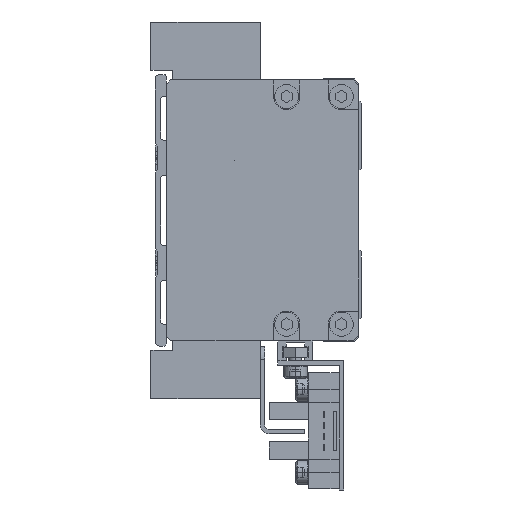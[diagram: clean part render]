
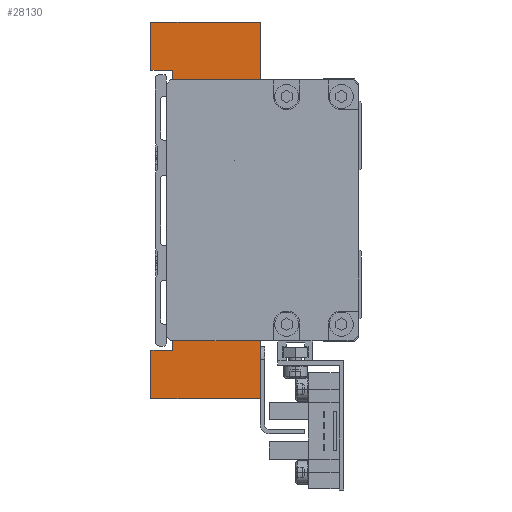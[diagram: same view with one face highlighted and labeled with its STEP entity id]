
A CAD part, left-side view. The second image highlights one B-rep face of the part: STEP entity #28130.
In plain terms, the highlighted planar face has unit normal (-1, 0, 0).
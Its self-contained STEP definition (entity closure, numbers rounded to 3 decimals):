
#94 = LINE ( 'NONE', #33058, #38872 ) ;
#427 = DIRECTION ( 'NONE',  ( 1., 0., 0. ) ) ;
#517 = DIRECTION ( 'NONE',  ( 0., -1., 0. ) ) ;
#663 = ORIENTED_EDGE ( 'NONE', *, *, #34106, .F. ) ;
#1747 = DIRECTION ( 'NONE',  ( 0., 0., -1. ) ) ;
#2123 = DIRECTION ( 'NONE',  ( 0., 0., -1. ) ) ;
#2566 = ORIENTED_EDGE ( 'NONE', *, *, #33613, .T. ) ;
#2676 = CARTESIAN_POINT ( 'NONE',  ( -77., 5., -28. ) ) ;
#3429 = DIRECTION ( 'NONE',  ( 0., 0., -1. ) ) ;
#3645 = EDGE_CURVE ( 'NONE', #19725, #28330, #26129, .T. ) ;
#3730 = PLANE ( 'NONE',  #25581 ) ;
#3906 = ORIENTED_EDGE ( 'NONE', *, *, #15177, .F. ) ;
#4924 = CARTESIAN_POINT ( 'NONE',  ( -77., 9., 21. ) ) ;
#5015 = CARTESIAN_POINT ( 'NONE',  ( -77., 10., 21. ) ) ;
#5592 = CARTESIAN_POINT ( 'NONE',  ( -77., 25., 32. ) ) ;
#5917 = EDGE_CURVE ( 'NONE', #9507, #12873, #17336, .T. ) ;
#6892 = LINE ( 'NONE', #39325, #44574 ) ;
#7045 = EDGE_CURVE ( 'NONE', #28364, #9507, #19956, .T. ) ;
#7139 = EDGE_CURVE ( 'NONE', #12873, #35262, #17203, .T. ) ;
#7287 = VECTOR ( 'NONE', #1747, 1000. ) ;
#7475 = VERTEX_POINT ( 'NONE', #41566 ) ;
#7486 = DIRECTION ( 'NONE',  ( 0., 1., 0. ) ) ;
#7590 = CARTESIAN_POINT ( 'NONE',  ( -77., 0., -43. ) ) ;
#8015 = VECTOR ( 'NONE', #27874, 1000. ) ;
#8034 = ORIENTED_EDGE ( 'NONE', *, *, #15524, .F. ) ;
#8235 = CARTESIAN_POINT ( 'NONE',  ( -77., 5., -21. ) ) ;
#8521 = VERTEX_POINT ( 'NONE', #5592 ) ;
#9507 = VERTEX_POINT ( 'NONE', #32804 ) ;
#9716 = VERTEX_POINT ( 'NONE', #17388 ) ;
#10374 = CARTESIAN_POINT ( 'NONE',  ( -77., 9., -21. ) ) ;
#10952 = VERTEX_POINT ( 'NONE', #10374 ) ;
#11805 = CARTESIAN_POINT ( 'NONE',  ( -77., 25., 43. ) ) ;
#12204 = DIRECTION ( 'NONE',  ( 0., 0., 1. ) ) ;
#12873 = VERTEX_POINT ( 'NONE', #20520 ) ;
#12882 = DIRECTION ( 'NONE',  ( 0., -1., 0. ) ) ;
#13143 = VECTOR ( 'NONE', #21216, 1000. ) ;
#13162 = CARTESIAN_POINT ( 'NONE',  ( -77., 25., -32. ) ) ;
#13404 = LINE ( 'NONE', #24673, #14497 ) ;
#14497 = VECTOR ( 'NONE', #28591, 1000. ) ;
#14725 = DIRECTION ( 'NONE',  ( 0., 0., -1. ) ) ;
#15044 = ORIENTED_EDGE ( 'NONE', *, *, #31483, .F. ) ;
#15177 = EDGE_CURVE ( 'NONE', #30233, #28364, #16415, .T. ) ;
#15227 = DIRECTION ( 'NONE',  ( 0., -1., 0. ) ) ;
#15466 = CARTESIAN_POINT ( 'NONE',  ( -77., 25., -43. ) ) ;
#15524 = EDGE_CURVE ( 'NONE', #19125, #25297, #29913, .T. ) ;
#15604 = VECTOR ( 'NONE', #20347, 1000. ) ;
#15733 = VECTOR ( 'NONE', #24373, 1000. ) ;
#15955 = EDGE_CURVE ( 'NONE', #9716, #25392, #26095, .T. ) ;
#16415 = LINE ( 'NONE', #7590, #13143 ) ;
#16568 = ORIENTED_EDGE ( 'NONE', *, *, #34323, .F. ) ;
#16952 = LINE ( 'NONE', #34692, #20206 ) ;
#17203 = LINE ( 'NONE', #21244, #8015 ) ;
#17336 = LINE ( 'NONE', #13162, #43700 ) ;
#17388 = CARTESIAN_POINT ( 'NONE',  ( -77., 25., 43. ) ) ;
#17420 = CARTESIAN_POINT ( 'NONE',  ( -77., 0., 43. ) ) ;
#17719 = LINE ( 'NONE', #24857, #37137 ) ;
#17996 = EDGE_CURVE ( 'NONE', #10952, #7475, #17719, .T. ) ;
#18121 = CARTESIAN_POINT ( 'NONE',  ( -77., 0., -28. ) ) ;
#18357 = CARTESIAN_POINT ( 'NONE',  ( -77., 5., 21. ) ) ;
#19125 = VERTEX_POINT ( 'NONE', #21607 ) ;
#19725 = VERTEX_POINT ( 'NONE', #4924 ) ;
#19826 = VECTOR ( 'NONE', #34384, 1000. ) ;
#19956 = LINE ( 'NONE', #44076, #15604 ) ;
#20068 = LINE ( 'NONE', #25656, #38345 ) ;
#20206 = VECTOR ( 'NONE', #517, 1000. ) ;
#20225 = EDGE_CURVE ( 'NONE', #25392, #29570, #35870, .T. ) ;
#20322 = LINE ( 'NONE', #18121, #31073 ) ;
#20347 = DIRECTION ( 'NONE',  ( 0., 0., 1. ) ) ;
#20520 = CARTESIAN_POINT ( 'NONE',  ( -77., 20., -32. ) ) ;
#20603 = VECTOR ( 'NONE', #41954, 1000. ) ;
#21216 = DIRECTION ( 'NONE',  ( 0., 1., 0. ) ) ;
#21244 = CARTESIAN_POINT ( 'NONE',  ( -77., 20., -32. ) ) ;
#21372 = CARTESIAN_POINT ( 'NONE',  ( -77., 20., 32. ) ) ;
#21560 = ORIENTED_EDGE ( 'NONE', *, *, #7139, .F. ) ;
#21607 = CARTESIAN_POINT ( 'NONE',  ( -77., 5., -21. ) ) ;
#22764 = CARTESIAN_POINT ( 'NONE',  ( -77., 0., 28. ) ) ;
#22889 = VECTOR ( 'NONE', #14725, 1000. ) ;
#23057 = ORIENTED_EDGE ( 'NONE', *, *, #31421, .F. ) ;
#23581 = LINE ( 'NONE', #24635, #19826 ) ;
#23873 = EDGE_LOOP ( 'NONE', ( #2566, #33563, #42375, #663, #36847, #36089, #39278, #23057, #21560, #35142, #37631, #3906, #16568, #15044, #8034, #28513, #41741, #27589 ) ) ;
#24097 = EDGE_CURVE ( 'NONE', #31563, #7475, #13404, .T. ) ;
#24373 = DIRECTION ( 'NONE',  ( 0., -1., 0. ) ) ;
#24635 = CARTESIAN_POINT ( 'NONE',  ( -77., 0., 28. ) ) ;
#24673 = CARTESIAN_POINT ( 'NONE',  ( -77., 10., 21. ) ) ;
#24760 = VERTEX_POINT ( 'NONE', #39937 ) ;
#24857 = CARTESIAN_POINT ( 'NONE',  ( -77., 9., -21. ) ) ;
#25297 = VERTEX_POINT ( 'NONE', #2676 ) ;
#25392 = VERTEX_POINT ( 'NONE', #17420 ) ;
#25581 = AXIS2_PLACEMENT_3D ( 'NONE', #41559, #427, #3429 ) ;
#25656 = CARTESIAN_POINT ( 'NONE',  ( -77., 5., 28. ) ) ;
#26095 = LINE ( 'NONE', #11805, #42231 ) ;
#26129 = LINE ( 'NONE', #41937, #39581 ) ;
#27232 = EDGE_CURVE ( 'NONE', #10952, #19125, #16952, .T. ) ;
#27589 = ORIENTED_EDGE ( 'NONE', *, *, #24097, .F. ) ;
#27874 = DIRECTION ( 'NONE',  ( 0., 0., 1. ) ) ;
#27969 = DIRECTION ( 'NONE',  ( 0., -1., 0. ) ) ;
#28130 = ADVANCED_FACE ( 'NONE', ( #28824 ), #3730, .F. ) ;
#28330 = VERTEX_POINT ( 'NONE', #18357 ) ;
#28364 = VERTEX_POINT ( 'NONE', #15466 ) ;
#28513 = ORIENTED_EDGE ( 'NONE', *, *, #27232, .F. ) ;
#28591 = DIRECTION ( 'NONE',  ( 0., 0., -1. ) ) ;
#28824 = FACE_OUTER_BOUND ( 'NONE', #23873, .T. ) ;
#29570 = VERTEX_POINT ( 'NONE', #22764 ) ;
#29913 = LINE ( 'NONE', #8235, #22889 ) ;
#30233 = VERTEX_POINT ( 'NONE', #33081 ) ;
#30636 = EDGE_CURVE ( 'NONE', #41622, #28330, #20068, .T. ) ;
#31073 = VECTOR ( 'NONE', #31674, 1000. ) ;
#31409 = CARTESIAN_POINT ( 'NONE',  ( -77., 5., -28. ) ) ;
#31421 = EDGE_CURVE ( 'NONE', #35262, #8521, #35110, .T. ) ;
#31483 = EDGE_CURVE ( 'NONE', #25297, #24760, #36731, .T. ) ;
#31563 = VERTEX_POINT ( 'NONE', #5015 ) ;
#31674 = DIRECTION ( 'NONE',  ( 0., 0., -1. ) ) ;
#32804 = CARTESIAN_POINT ( 'NONE',  ( -77., 25., -32. ) ) ;
#33058 = CARTESIAN_POINT ( 'NONE',  ( -77., 25., 32. ) ) ;
#33081 = CARTESIAN_POINT ( 'NONE',  ( -77., 0., -43. ) ) ;
#33563 = ORIENTED_EDGE ( 'NONE', *, *, #3645, .T. ) ;
#33613 = EDGE_CURVE ( 'NONE', #31563, #19725, #6892, .T. ) ;
#34106 = EDGE_CURVE ( 'NONE', #29570, #41622, #23581, .T. ) ;
#34323 = EDGE_CURVE ( 'NONE', #24760, #30233, #20322, .T. ) ;
#34384 = DIRECTION ( 'NONE',  ( 0., 1., 0. ) ) ;
#34499 = CARTESIAN_POINT ( 'NONE',  ( -77., 5., 28. ) ) ;
#34692 = CARTESIAN_POINT ( 'NONE',  ( -77., 9., -21. ) ) ;
#35110 = LINE ( 'NONE', #37436, #20603 ) ;
#35142 = ORIENTED_EDGE ( 'NONE', *, *, #5917, .F. ) ;
#35262 = VERTEX_POINT ( 'NONE', #21372 ) ;
#35870 = LINE ( 'NONE', #39247, #7287 ) ;
#36089 = ORIENTED_EDGE ( 'NONE', *, *, #15955, .F. ) ;
#36731 = LINE ( 'NONE', #31409, #15733 ) ;
#36847 = ORIENTED_EDGE ( 'NONE', *, *, #20225, .F. ) ;
#37137 = VECTOR ( 'NONE', #7486, 1000. ) ;
#37436 = CARTESIAN_POINT ( 'NONE',  ( -77., 20., 32. ) ) ;
#37631 = ORIENTED_EDGE ( 'NONE', *, *, #7045, .F. ) ;
#38345 = VECTOR ( 'NONE', #2123, 1000. ) ;
#38872 = VECTOR ( 'NONE', #12204, 1000. ) ;
#39247 = CARTESIAN_POINT ( 'NONE',  ( -77., 0., 43. ) ) ;
#39278 = ORIENTED_EDGE ( 'NONE', *, *, #41411, .F. ) ;
#39325 = CARTESIAN_POINT ( 'NONE',  ( -77., 10., 21. ) ) ;
#39581 = VECTOR ( 'NONE', #27969, 1000. ) ;
#39937 = CARTESIAN_POINT ( 'NONE',  ( -77., 0., -28. ) ) ;
#41411 = EDGE_CURVE ( 'NONE', #8521, #9716, #94, .T. ) ;
#41559 = CARTESIAN_POINT ( 'NONE',  ( -77., 10., 0. ) ) ;
#41566 = CARTESIAN_POINT ( 'NONE',  ( -77., 10., -21. ) ) ;
#41622 = VERTEX_POINT ( 'NONE', #34499 ) ;
#41741 = ORIENTED_EDGE ( 'NONE', *, *, #17996, .T. ) ;
#41937 = CARTESIAN_POINT ( 'NONE',  ( -77., 9., 21. ) ) ;
#41954 = DIRECTION ( 'NONE',  ( 0., 1., 0. ) ) ;
#42231 = VECTOR ( 'NONE', #42721, 1000. ) ;
#42375 = ORIENTED_EDGE ( 'NONE', *, *, #30636, .F. ) ;
#42721 = DIRECTION ( 'NONE',  ( 0., -1., 0. ) ) ;
#43700 = VECTOR ( 'NONE', #12882, 1000. ) ;
#44076 = CARTESIAN_POINT ( 'NONE',  ( -77., 25., -43. ) ) ;
#44574 = VECTOR ( 'NONE', #15227, 1000. ) ;
